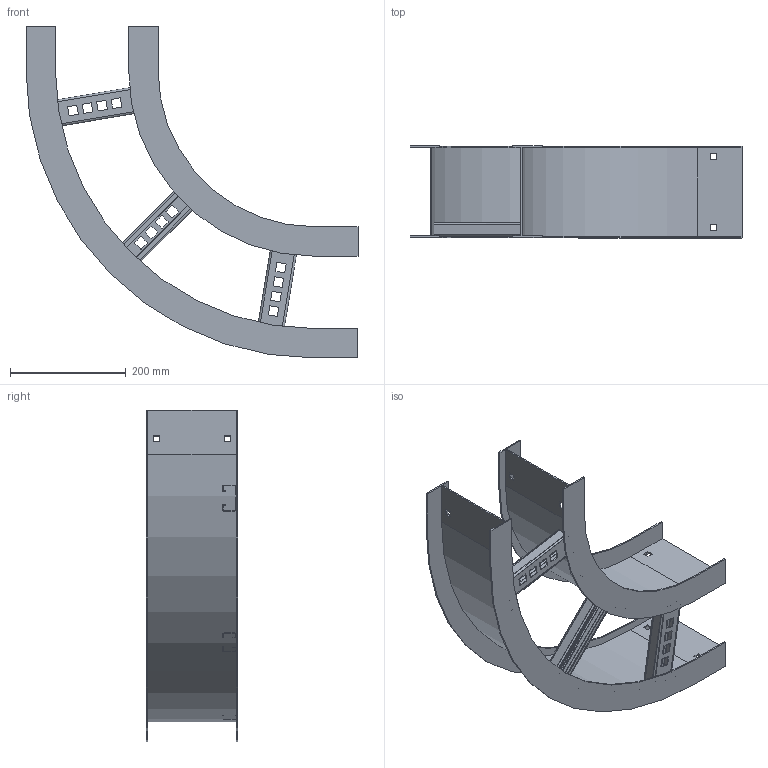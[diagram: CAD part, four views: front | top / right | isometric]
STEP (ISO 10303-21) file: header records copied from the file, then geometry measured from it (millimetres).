
FILE_DESCRIPTION((''),'2;1');
FILE_NAME('AHF606LHB9012_ASM','2010-01-27T',('erouzier'),(''),'PRO/ENGINEER BY PARAMETRIC TECHNOLOGY CORPORATION, 2008510','PRO/ENGINEER BY PARAMETRIC TECHNOLOGY CORPORATION, 2008510','');
FILE_SCHEMA(('CONFIG_CONTROL_DESIGN'));
Length unit declared in the file: inch
Products named in the file (4): CDS001812-6-90-12-I; CDS001812-6-90-18-O; CDS002159L6-P; AHF606LHB9012_ASM
Assembly tree (5 placements, depth 2):
  AHF606LHB9012_ASM
    CDS001812-6-90-12-I
    CDS001812-6-90-18-O
    CDS002159L6-P  x3
Bounding box: 573.15 x 157.99 x 572.9 mm (x, y, z)
Volume: 1032388.6 mm3; surface area: 880161.7 mm2
Topology: 5 solids, 5 shells, 270 faces, 780 edges, 520 vertices
Faces by surface type: plane 177, cylinder 93
Entity records: 4942 total; most frequent: CARTESIAN_POINT 855, ORIENTED_EDGE 840, DIRECTION 808, EDGE_CURVE 420, VECTOR 342, LINE 342, VERTEX_POINT 280, AXIS2_PLACEMENT_3D 233
